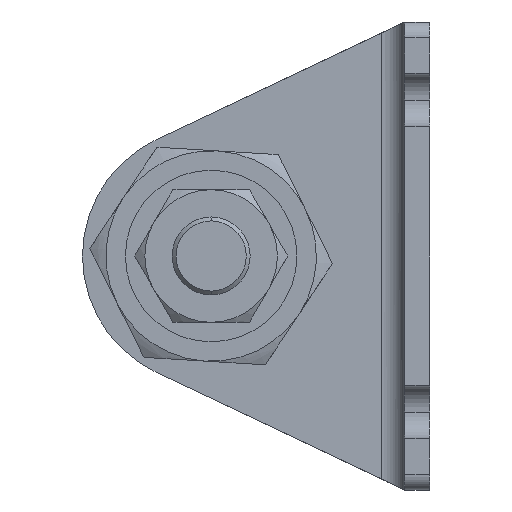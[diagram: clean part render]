
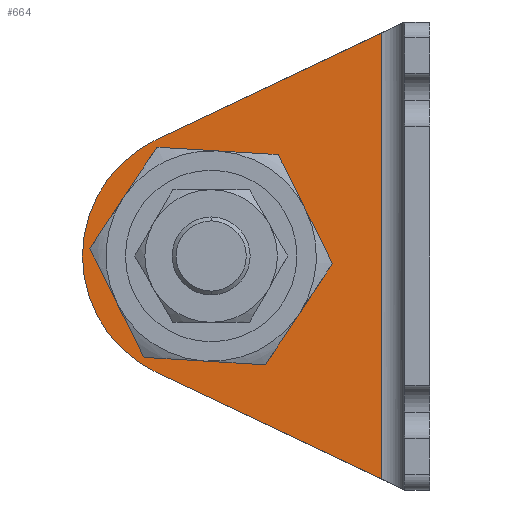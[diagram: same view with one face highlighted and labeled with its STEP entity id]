
A CAD part, left-side view. The second image highlights one B-rep face of the part: STEP entity #664.
In plain terms, the highlighted planar face has unit normal (-1, 0, 0) as drawn and (1, 0, 0) by its records, which use the part's own axes.
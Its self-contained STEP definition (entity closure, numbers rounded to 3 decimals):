
#39 = CARTESIAN_POINT ( 'NONE',  ( 3.2, 35.062, -44.913 ) ) ;
#57 = DIRECTION ( 'NONE',  ( 1., 0., 0. ) ) ;
#133 = CARTESIAN_POINT ( 'NONE',  ( 3.2, 3.2, -60. ) ) ;
#146 = VERTEX_POINT ( 'NONE', #1987 ) ;
#264 = ORIENTED_EDGE ( 'NONE', *, *, #1348, .T. ) ;
#405 = ORIENTED_EDGE ( 'NONE', *, *, #1184, .T. ) ;
#427 = CARTESIAN_POINT ( 'NONE',  ( 3.2, 35.062, -15.087 ) ) ;
#499 = CARTESIAN_POINT ( 'NONE',  ( 3.2, 3.2, -60. ) ) ;
#560 = CIRCLE ( 'NONE', #3337, 16.5 ) ;
#654 = VERTEX_POINT ( 'NONE', #427 ) ;
#664 = ADVANCED_FACE ( 'NONE', ( #3936, #2421 ), #4151, .T. ) ;
#698 = CIRCLE ( 'NONE', #2408, 11.5 ) ;
#701 = LINE ( 'NONE', #3162, #2232 ) ;
#813 = ORIENTED_EDGE ( 'NONE', *, *, #1676, .T. ) ;
#818 = DIRECTION ( 'NONE',  ( 0., 0.904, -0.428 ) ) ;
#928 = EDGE_CURVE ( 'NONE', #1056, #1850, #4093, .T. ) ;
#932 = EDGE_LOOP ( 'NONE', ( #2070, #1874 ) ) ;
#1000 = AXIS2_PLACEMENT_3D ( 'NONE', #3685, #1768, #1991 ) ;
#1056 = VERTEX_POINT ( 'NONE', #39 ) ;
#1173 = CARTESIAN_POINT ( 'NONE',  ( 3.2, 6.2, -58.579 ) ) ;
#1184 = EDGE_CURVE ( 'NONE', #1850, #654, #560, .T. ) ;
#1253 = DIRECTION ( 'NONE',  ( 1., 0., 0. ) ) ;
#1300 = DIRECTION ( 'NONE',  ( 0., 0., -1. ) ) ;
#1348 = EDGE_CURVE ( 'NONE', #3650, #1056, #4274, .T. ) ;
#1513 = VERTEX_POINT ( 'NONE', #1514 ) ;
#1514 = CARTESIAN_POINT ( 'NONE',  ( 3.2, 16.5, -30. ) ) ;
#1676 = EDGE_CURVE ( 'NONE', #2902, #3650, #701, .T. ) ;
#1734 = DIRECTION ( 'NONE',  ( 0., 1., 0. ) ) ;
#1768 = DIRECTION ( 'NONE',  ( 1., 0., 0. ) ) ;
#1790 = DIRECTION ( 'NONE',  ( 0., 1., 0. ) ) ;
#1850 = VERTEX_POINT ( 'NONE', #2625 ) ;
#1874 = ORIENTED_EDGE ( 'NONE', *, *, #2213, .F. ) ;
#1956 = DIRECTION ( 'NONE',  ( 1., 0., 0. ) ) ;
#1987 = CARTESIAN_POINT ( 'NONE',  ( 3.2, 39.5, -30. ) ) ;
#1991 = DIRECTION ( 'NONE',  ( 0., 1., 0. ) ) ;
#2022 = CARTESIAN_POINT ( 'NONE',  ( 3.2, 28., -30. ) ) ;
#2023 = ORIENTED_EDGE ( 'NONE', *, *, #928, .T. ) ;
#2070 = ORIENTED_EDGE ( 'NONE', *, *, #2775, .F. ) ;
#2213 = EDGE_CURVE ( 'NONE', #1513, #146, #2683, .T. ) ;
#2232 = VECTOR ( 'NONE', #1300, 1000. ) ;
#2260 = AXIS2_PLACEMENT_3D ( 'NONE', #133, #2287, #2767 ) ;
#2287 = DIRECTION ( 'NONE',  ( 1., 0., 0. ) ) ;
#2408 = AXIS2_PLACEMENT_3D ( 'NONE', #3797, #1956, #1734 ) ;
#2421 = FACE_BOUND ( 'NONE', #932, .T. ) ;
#2503 = LINE ( 'NONE', #3729, #4103 ) ;
#2547 = DIRECTION ( 'NONE',  ( 0., 0.904, 0.428 ) ) ;
#2625 = CARTESIAN_POINT ( 'NONE',  ( 3.2, 44.5, -30. ) ) ;
#2683 = CIRCLE ( 'NONE', #3057, 11.5 ) ;
#2767 = DIRECTION ( 'NONE',  ( 0., 1., 0. ) ) ;
#2775 = EDGE_CURVE ( 'NONE', #146, #1513, #698, .T. ) ;
#2891 = EDGE_CURVE ( 'NONE', #2902, #654, #2503, .T. ) ;
#2894 = EDGE_LOOP ( 'NONE', ( #3011, #813, #264, #2023, #405 ) ) ;
#2902 = VERTEX_POINT ( 'NONE', #4296 ) ;
#3011 = ORIENTED_EDGE ( 'NONE', *, *, #2891, .F. ) ;
#3057 = AXIS2_PLACEMENT_3D ( 'NONE', #2022, #57, #3114 ) ;
#3105 = CARTESIAN_POINT ( 'NONE',  ( 3.2, 28., -30. ) ) ;
#3114 = DIRECTION ( 'NONE',  ( 0., 1., 0. ) ) ;
#3162 = CARTESIAN_POINT ( 'NONE',  ( 3.2, 6.2, -60. ) ) ;
#3337 = AXIS2_PLACEMENT_3D ( 'NONE', #3105, #1253, #1790 ) ;
#3650 = VERTEX_POINT ( 'NONE', #1173 ) ;
#3685 = CARTESIAN_POINT ( 'NONE',  ( 3.2, 28., -30. ) ) ;
#3729 = CARTESIAN_POINT ( 'NONE',  ( 3.2, 26.408, -10.99 ) ) ;
#3766 = VECTOR ( 'NONE', #2547, 1000. ) ;
#3797 = CARTESIAN_POINT ( 'NONE',  ( 3.2, 28., -30. ) ) ;
#3936 = FACE_OUTER_BOUND ( 'NONE', #2894, .T. ) ;
#4093 = CIRCLE ( 'NONE', #1000, 16.5 ) ;
#4103 = VECTOR ( 'NONE', #818, 1000. ) ;
#4151 = PLANE ( 'NONE',  #2260 ) ;
#4274 = LINE ( 'NONE', #499, #3766 ) ;
#4296 = CARTESIAN_POINT ( 'NONE',  ( 3.2, 6.2, -1.421 ) ) ;
